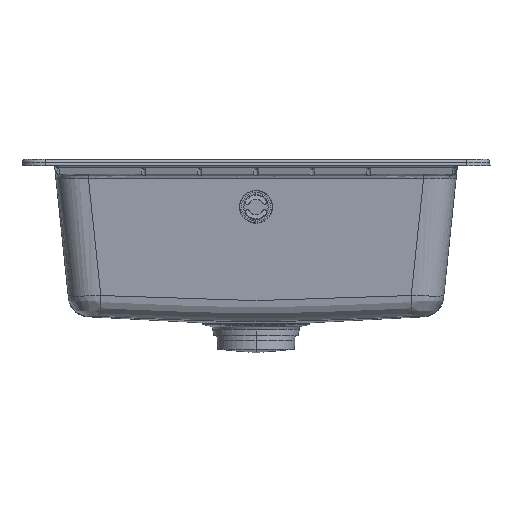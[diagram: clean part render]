
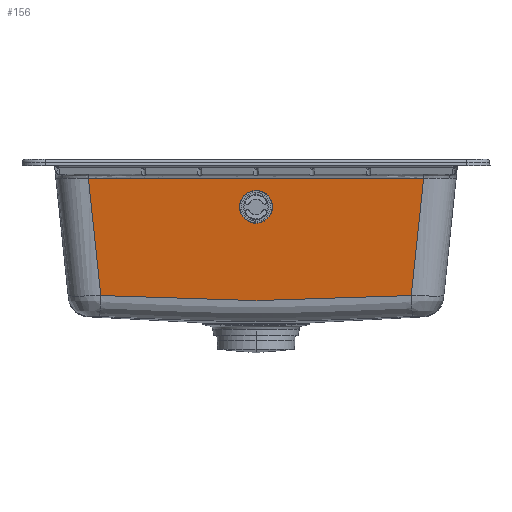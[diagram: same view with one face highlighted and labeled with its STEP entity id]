
A CAD part, left-side view. The second image highlights one B-rep face of the part: STEP entity #156.
In plain terms, the highlighted planar face has unit normal (0.995, 0, 0.104).
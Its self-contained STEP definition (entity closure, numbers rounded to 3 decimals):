
#30=FACE_BOUND('',#810,.T.);
#156=ADVANCED_FACE('',(#482,#30),#5858,.T.);
#482=FACE_OUTER_BOUND('',#809,.T.);
#809=EDGE_LOOP('',(#1403,#1404,#1405,#1406));
#810=EDGE_LOOP('',(#1407,#1408));
#1403=ORIENTED_EDGE('',*,*,#3182,.F.);
#1404=ORIENTED_EDGE('',*,*,#3263,.F.);
#1405=ORIENTED_EDGE('',*,*,#3179,.F.);
#1406=ORIENTED_EDGE('',*,*,#3184,.F.);
#1407=ORIENTED_EDGE('',*,*,#3324,.F.);
#1408=ORIENTED_EDGE('',*,*,#3323,.F.);
#3179=EDGE_CURVE('',#5047,#5046,#4408,.T.);
#3182=EDGE_CURVE('',#5006,#5048,#4411,.T.);
#3184=EDGE_CURVE('',#5048,#5047,#4413,.T.);
#3263=EDGE_CURVE('',#5046,#5006,#4440,.T.);
#3323=EDGE_CURVE('',#5106,#5107,#4123,.T.);
#3324=EDGE_CURVE('',#5107,#5106,#4124,.T.);
#4123=(
BOUNDED_CURVE()
B_SPLINE_CURVE(2,(#16619,#16620,#16621,#16622,#16623),.UNSPECIFIED.,.F.,
 .F.)
B_SPLINE_CURVE_WITH_KNOTS((3,2,3),(0.,1.571,3.142),
 .UNSPECIFIED.)
CURVE()
GEOMETRIC_REPRESENTATION_ITEM()
RATIONAL_B_SPLINE_CURVE((1.,0.707,1.,0.707,1.))
REPRESENTATION_ITEM('')
);
#4124=(
BOUNDED_CURVE()
B_SPLINE_CURVE(2,(#16624,#16625,#16626,#16627,#16628),.UNSPECIFIED.,.F.,
 .F.)
B_SPLINE_CURVE_WITH_KNOTS((3,2,3),(0.,1.571,3.142),
 .UNSPECIFIED.)
CURVE()
GEOMETRIC_REPRESENTATION_ITEM()
RATIONAL_B_SPLINE_CURVE((1.,0.707,1.,0.707,1.))
REPRESENTATION_ITEM('')
);
#4408=B_SPLINE_CURVE_WITH_KNOTS('',5,(#14862,#14863,#14864,#14865,#14866,
#14867,#14868,#14869,#14870,#14871,#14872,#14873,#14874,#14875,#14876,#14877,
#14878,#14879,#14880,#14881,#14882,#14883,#14884,#14885,#14886,#14887,#14888,
#14889,#14890,#14891,#14892,#14893,#14894,#14895,#14896,#14897,#14898,#14899,
#14900,#14901,#14902,#14903,#14904,#14905,#14906,#14907,#14908,#14909,#14910,
#14911,#14912,#14913,#14914,#14915,#14916,#14917,#14918),.UNSPECIFIED.,
 .F.,.F.,(6,1,1,1,1,1,1,1,1,1,1,1,1,1,1,1,1,1,1,1,1,1,1,1,1,1,1,1,1,1,1,
1,1,1,1,1,1,1,1,1,1,1,1,1,1,1,1,1,1,1,1,1,6),(0.,0.031,0.06,
0.087,0.112,0.136,0.158,
0.18,0.201,0.221,0.24,
0.258,0.276,0.294,0.31,
0.327,0.343,0.359,0.374,
0.39,0.405,0.42,0.436,
0.451,0.466,0.481,0.496,
0.512,0.527,0.542,0.557,
0.572,0.588,0.603,0.619,
0.634,0.65,0.667,0.683,
0.7,0.718,0.736,0.754,
0.774,0.794,0.815,0.837,
0.86,0.885,0.911,0.938,
0.968,1.),.UNSPECIFIED.);
#4411=B_SPLINE_CURVE_WITH_KNOTS('',1,(#14982,#14983),.UNSPECIFIED.,.F.,
 .F.,(2,2),(-358.095,0.),.UNSPECIFIED.);
#4413=B_SPLINE_CURVE_WITH_KNOTS('',1,(#14986,#14987),.UNSPECIFIED.,.F.,
 .F.,(2,2),(0.,126.827),.UNSPECIFIED.);
#4440=B_SPLINE_CURVE_WITH_KNOTS('',1,(#16381,#16382),.UNSPECIFIED.,.F.,
 .F.,(2,2),(-126.827,0.),.UNSPECIFIED.);
#5006=VERTEX_POINT('',#13395);
#5046=VERTEX_POINT('',#13435);
#5047=VERTEX_POINT('',#13436);
#5048=VERTEX_POINT('',#13437);
#5106=VERTEX_POINT('',#13495);
#5107=VERTEX_POINT('',#13496);
#5858=PLANE('',#5894);
#5894=AXIS2_PLACEMENT_3D('',#9079,#5914,$);
#5914=DIRECTION('',(0.995,0.,0.105));
#9079=CARTESIAN_POINT('',(-51.716,150.983,-164.447));
#13395=CARTESIAN_POINT('',(-66.856,-243.048,-20.399));
#13435=CARTESIAN_POINT('',(-53.671,-229.862,-145.848));
#13436=CARTESIAN_POINT('',(-53.671,101.862,-145.848));
#13437=CARTESIAN_POINT('',(-66.856,115.048,-20.399));
#13495=CARTESIAN_POINT('',(-65.469,-64.,-33.596));
#13496=CARTESIAN_POINT('',(-61.81,-64.,-68.404));
#14862=CARTESIAN_POINT('',(-53.671,101.862,-145.848));
#14863=CARTESIAN_POINT('',(-53.66,99.784,-145.945));
#14864=CARTESIAN_POINT('',(-53.641,95.803,-146.132));
#14865=CARTESIAN_POINT('',(-53.613,90.048,-146.399));
#14866=CARTESIAN_POINT('',(-53.577,82.626,-146.74));
#14867=CARTESIAN_POINT('',(-53.534,73.617,-147.148));
#14868=CARTESIAN_POINT('',(-53.494,65.167,-147.524));
#14869=CARTESIAN_POINT('',(-53.458,57.168,-147.874));
#14870=CARTESIAN_POINT('',(-53.423,49.556,-148.2));
#14871=CARTESIAN_POINT('',(-53.391,42.29,-148.504));
#14872=CARTESIAN_POINT('',(-53.362,35.344,-148.788));
#14873=CARTESIAN_POINT('',(-53.334,28.697,-149.052));
#14874=CARTESIAN_POINT('',(-53.308,22.322,-149.297));
#14875=CARTESIAN_POINT('',(-53.284,16.185,-149.525));
#14876=CARTESIAN_POINT('',(-53.262,10.255,-149.737));
#14877=CARTESIAN_POINT('',(-53.241,4.502,-149.934));
#14878=CARTESIAN_POINT('',(-53.222,-1.096,-150.117));
#14879=CARTESIAN_POINT('',(-53.204,-6.563,-150.285));
#14880=CARTESIAN_POINT('',(-53.188,-11.917,-150.44));
#14881=CARTESIAN_POINT('',(-53.173,-17.179,-150.582));
#14882=CARTESIAN_POINT('',(-53.16,-22.368,-150.71));
#14883=CARTESIAN_POINT('',(-53.148,-27.5,-150.825));
#14884=CARTESIAN_POINT('',(-53.137,-32.591,-150.926));
#14885=CARTESIAN_POINT('',(-53.128,-37.652,-151.014));
#14886=CARTESIAN_POINT('',(-53.12,-42.695,-151.087));
#14887=CARTESIAN_POINT('',(-53.114,-47.726,-151.145));
#14888=CARTESIAN_POINT('',(-53.109,-52.751,-151.189));
#14889=CARTESIAN_POINT('',(-53.106,-57.774,-151.216));
#14890=CARTESIAN_POINT('',(-53.105,-62.796,-151.228));
#14891=CARTESIAN_POINT('',(-53.106,-67.818,-151.224));
#14892=CARTESIAN_POINT('',(-53.108,-72.842,-151.204));
#14893=CARTESIAN_POINT('',(-53.111,-77.869,-151.168));
#14894=CARTESIAN_POINT('',(-53.117,-82.905,-151.117));
#14895=CARTESIAN_POINT('',(-53.124,-87.955,-151.05));
#14896=CARTESIAN_POINT('',(-53.132,-93.029,-150.969));
#14897=CARTESIAN_POINT('',(-53.142,-98.14,-150.873));
#14898=CARTESIAN_POINT('',(-53.154,-103.3,-150.764));
#14899=CARTESIAN_POINT('',(-53.167,-108.524,-150.64));
#14900=CARTESIAN_POINT('',(-53.181,-113.827,-150.502));
#14901=CARTESIAN_POINT('',(-53.197,-119.228,-150.35));
#14902=CARTESIAN_POINT('',(-53.215,-124.745,-150.184));
#14903=CARTESIAN_POINT('',(-53.234,-130.4,-150.004));
#14904=CARTESIAN_POINT('',(-53.254,-136.214,-149.808));
#14905=CARTESIAN_POINT('',(-53.277,-142.216,-149.597));
#14906=CARTESIAN_POINT('',(-53.301,-148.43,-149.368));
#14907=CARTESIAN_POINT('',(-53.326,-154.888,-149.122));
#14908=CARTESIAN_POINT('',(-53.354,-161.621,-148.857));
#14909=CARTESIAN_POINT('',(-53.384,-168.663,-148.571));
#14910=CARTESIAN_POINT('',(-53.417,-176.053,-148.264));
#14911=CARTESIAN_POINT('',(-53.452,-183.834,-147.932));
#14912=CARTESIAN_POINT('',(-53.489,-192.048,-147.574));
#14913=CARTESIAN_POINT('',(-53.53,-200.755,-147.187));
#14914=CARTESIAN_POINT('',(-53.574,-210.047,-146.767));
#14915=CARTESIAN_POINT('',(-53.611,-217.707,-146.415));
#14916=CARTESIAN_POINT('',(-53.64,-223.636,-146.139));
#14917=CARTESIAN_POINT('',(-53.66,-227.731,-145.948));
#14918=CARTESIAN_POINT('',(-53.671,-229.862,-145.848));
#14982=CARTESIAN_POINT('',(-66.856,-243.048,-20.399));
#14983=CARTESIAN_POINT('',(-66.856,115.048,-20.399));
#14986=CARTESIAN_POINT('',(-66.856,115.048,-20.399));
#14987=CARTESIAN_POINT('',(-53.671,101.862,-145.848));
#16381=CARTESIAN_POINT('',(-53.671,-229.862,-145.848));
#16382=CARTESIAN_POINT('',(-66.856,-243.048,-20.399));
#16619=CARTESIAN_POINT('',(-65.469,-64.,-33.596));
#16620=CARTESIAN_POINT('',(-65.469,-81.5,-33.596));
#16621=CARTESIAN_POINT('',(-63.64,-81.5,-51.));
#16622=CARTESIAN_POINT('',(-61.81,-81.5,-68.404));
#16623=CARTESIAN_POINT('',(-61.81,-64.,-68.404));
#16624=CARTESIAN_POINT('',(-61.81,-64.,-68.404));
#16625=CARTESIAN_POINT('',(-61.81,-46.5,-68.404));
#16626=CARTESIAN_POINT('',(-63.64,-46.5,-51.));
#16627=CARTESIAN_POINT('',(-65.469,-46.5,-33.596));
#16628=CARTESIAN_POINT('',(-65.469,-64.,-33.596));
